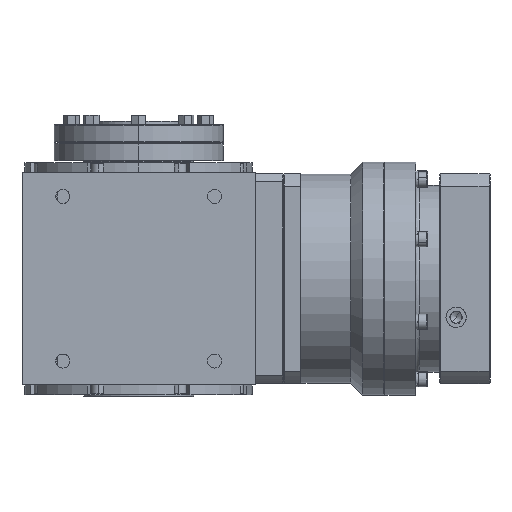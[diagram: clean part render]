
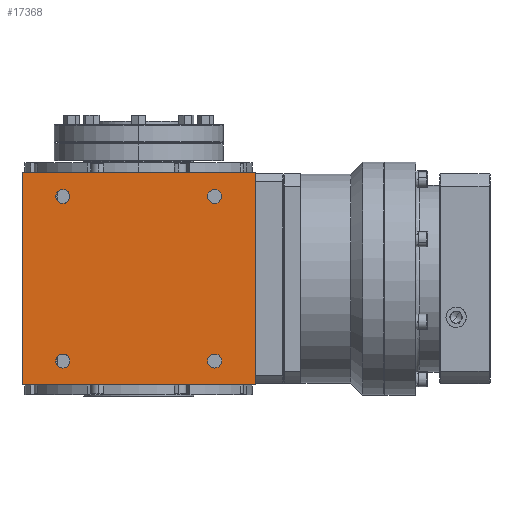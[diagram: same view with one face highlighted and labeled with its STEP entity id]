
A CAD part, left-side view. The second image highlights one B-rep face of the part: STEP entity #17368.
In plain terms, the highlighted planar face has unit normal (-1, 0, 0).
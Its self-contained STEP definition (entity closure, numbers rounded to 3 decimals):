
#117 = DIRECTION ( 'NONE',  ( 0., -1., 0. ) ) ;
#255 = EDGE_CURVE ( 'NONE', #13703, #36221, #17643, .T. ) ;
#526 = DIRECTION ( 'NONE',  ( 1., 0., 0. ) ) ;
#888 = CARTESIAN_POINT ( 'NONE',  ( -100., -100., 91. ) ) ;
#1069 = CARTESIAN_POINT ( 'NONE',  ( -100., 0., 91. ) ) ;
#1543 = CARTESIAN_POINT ( 'NONE',  ( -100., -65., -70.5 ) ) ;
#2199 = VERTEX_POINT ( 'NONE', #27419 ) ;
#2318 = CARTESIAN_POINT ( 'NONE',  ( -100., -59., -70.5 ) ) ;
#2476 = CIRCLE ( 'NONE', #6060, 6. ) ;
#2663 = LINE ( 'NONE', #25051, #35531 ) ;
#3344 = VERTEX_POINT ( 'NONE', #20389 ) ;
#4444 = ORIENTED_EDGE ( 'NONE', *, *, #35548, .T. ) ;
#4516 = DIRECTION ( 'NONE',  ( 1., 0., 0. ) ) ;
#4564 = FACE_BOUND ( 'NONE', #4621, .T. ) ;
#4621 = EDGE_LOOP ( 'NONE', ( #18715, #29236 ) ) ;
#4871 = CARTESIAN_POINT ( 'NONE',  ( -100., 65., -70.5 ) ) ;
#5021 = ORIENTED_EDGE ( 'NONE', *, *, #6760, .T. ) ;
#6060 = AXIS2_PLACEMENT_3D ( 'NONE', #32940, #18731, #30140 ) ;
#6250 = ORIENTED_EDGE ( 'NONE', *, *, #8907, .T. ) ;
#6296 = VERTEX_POINT ( 'NONE', #13477 ) ;
#6535 = CARTESIAN_POINT ( 'NONE',  ( -100., 65., 70.5 ) ) ;
#6566 = ORIENTED_EDGE ( 'NONE', *, *, #7758, .T. ) ;
#6760 = EDGE_CURVE ( 'NONE', #17525, #27306, #10519, .T. ) ;
#6991 = FACE_OUTER_BOUND ( 'NONE', #14934, .T. ) ;
#7351 = FACE_BOUND ( 'NONE', #13993, .T. ) ;
#7401 = CARTESIAN_POINT ( 'NONE',  ( -100., 59., 70.5 ) ) ;
#7758 = EDGE_CURVE ( 'NONE', #8546, #6296, #33075, .T. ) ;
#8546 = VERTEX_POINT ( 'NONE', #36863 ) ;
#8596 = AXIS2_PLACEMENT_3D ( 'NONE', #32572, #27329, #12220 ) ;
#8780 = ORIENTED_EDGE ( 'NONE', *, *, #36685, .T. ) ;
#8854 = CARTESIAN_POINT ( 'NONE',  ( -100., -71., -70.5 ) ) ;
#8907 = EDGE_CURVE ( 'NONE', #3344, #13703, #2663, .T. ) ;
#9609 = CIRCLE ( 'NONE', #14946, 6. ) ;
#9814 = CIRCLE ( 'NONE', #24704, 6. ) ;
#10117 = DIRECTION ( 'NONE',  ( 1., 0., 0. ) ) ;
#10519 = CIRCLE ( 'NONE', #20474, 6. ) ;
#10856 = CARTESIAN_POINT ( 'NONE',  ( -100., 59., -70.5 ) ) ;
#11247 = DIRECTION ( 'NONE',  ( 0., -1., 0. ) ) ;
#12078 = DIRECTION ( 'NONE',  ( 0., -1., 0. ) ) ;
#12220 = DIRECTION ( 'NONE',  ( 0., -1., 0. ) ) ;
#12295 = EDGE_LOOP ( 'NONE', ( #6566, #36817 ) ) ;
#12448 = DIRECTION ( 'NONE',  ( 0., -1., 0. ) ) ;
#12581 = CARTESIAN_POINT ( 'NONE',  ( -100., 65., 70.5 ) ) ;
#12834 = VECTOR ( 'NONE', #24155, 1000. ) ;
#13450 = ORIENTED_EDGE ( 'NONE', *, *, #22444, .T. ) ;
#13477 = CARTESIAN_POINT ( 'NONE',  ( -100., -59., 70.5 ) ) ;
#13703 = VERTEX_POINT ( 'NONE', #20120 ) ;
#13971 = VECTOR ( 'NONE', #26234, 1000. ) ;
#13993 = EDGE_LOOP ( 'NONE', ( #8780, #13450 ) ) ;
#14851 = CARTESIAN_POINT ( 'NONE',  ( -100., -100., -91. ) ) ;
#14934 = EDGE_LOOP ( 'NONE', ( #20012, #22158, #21600, #6250 ) ) ;
#14946 = AXIS2_PLACEMENT_3D ( 'NONE', #4871, #4516, #33438 ) ;
#15183 = AXIS2_PLACEMENT_3D ( 'NONE', #1543, #10117, #21491 ) ;
#15271 = VERTEX_POINT ( 'NONE', #7401 ) ;
#15933 = PLANE ( 'NONE',  #8596 ) ;
#17194 = CIRCLE ( 'NONE', #18978, 6. ) ;
#17368 = ADVANCED_FACE ( 'NONE', ( #21163, #7351, #18727, #4564, #6991 ), #15933, .T. ) ;
#17525 = VERTEX_POINT ( 'NONE', #19276 ) ;
#17643 = LINE ( 'NONE', #14851, #13971 ) ;
#17890 = DIRECTION ( 'NONE',  ( 1., 0., 0. ) ) ;
#18649 = VERTEX_POINT ( 'NONE', #2318 ) ;
#18715 = ORIENTED_EDGE ( 'NONE', *, *, #25579, .T. ) ;
#18727 = FACE_BOUND ( 'NONE', #12295, .T. ) ;
#18731 = DIRECTION ( 'NONE',  ( 1., 0., 0. ) ) ;
#18797 = VERTEX_POINT ( 'NONE', #8854 ) ;
#18978 = AXIS2_PLACEMENT_3D ( 'NONE', #6535, #17890, #29298 ) ;
#19276 = CARTESIAN_POINT ( 'NONE',  ( -100., 71., -70.5 ) ) ;
#20012 = ORIENTED_EDGE ( 'NONE', *, *, #255, .T. ) ;
#20120 = CARTESIAN_POINT ( 'NONE',  ( -100., -100., -91. ) ) ;
#20389 = CARTESIAN_POINT ( 'NONE',  ( -100., 100., -91. ) ) ;
#20473 = CARTESIAN_POINT ( 'NONE',  ( -100., -65., 70.5 ) ) ;
#20474 = AXIS2_PLACEMENT_3D ( 'NONE', #31309, #25684, #117 ) ;
#21163 = FACE_BOUND ( 'NONE', #33060, .T. ) ;
#21359 = CARTESIAN_POINT ( 'NONE',  ( -100., 100., -91. ) ) ;
#21491 = DIRECTION ( 'NONE',  ( 0., -1., 0. ) ) ;
#21600 = ORIENTED_EDGE ( 'NONE', *, *, #33863, .F. ) ;
#22158 = ORIENTED_EDGE ( 'NONE', *, *, #24108, .F. ) ;
#22444 = EDGE_CURVE ( 'NONE', #18649, #18797, #2476, .T. ) ;
#22531 = AXIS2_PLACEMENT_3D ( 'NONE', #12581, #26219, #29763 ) ;
#23668 = DIRECTION ( 'NONE',  ( 1., 0., 0. ) ) ;
#24108 = EDGE_CURVE ( 'NONE', #2199, #36221, #26634, .T. ) ;
#24155 = DIRECTION ( 'NONE',  ( 0., 0., 1. ) ) ;
#24216 = DIRECTION ( 'NONE',  ( 0., -1., 0. ) ) ;
#24629 = VECTOR ( 'NONE', #12448, 1000. ) ;
#24704 = AXIS2_PLACEMENT_3D ( 'NONE', #20473, #526, #12078 ) ;
#24732 = CIRCLE ( 'NONE', #15183, 6. ) ;
#25051 = CARTESIAN_POINT ( 'NONE',  ( -100., 100., -91. ) ) ;
#25579 = EDGE_CURVE ( 'NONE', #15271, #29318, #26103, .T. ) ;
#25684 = DIRECTION ( 'NONE',  ( 1., 0., 0. ) ) ;
#25944 = EDGE_CURVE ( 'NONE', #29318, #15271, #17194, .T. ) ;
#26103 = CIRCLE ( 'NONE', #22531, 6. ) ;
#26219 = DIRECTION ( 'NONE',  ( 1., 0., 0. ) ) ;
#26234 = DIRECTION ( 'NONE',  ( 0., 0., 1. ) ) ;
#26634 = LINE ( 'NONE', #1069, #24629 ) ;
#27306 = VERTEX_POINT ( 'NONE', #10856 ) ;
#27329 = DIRECTION ( 'NONE',  ( -1., 0., 0. ) ) ;
#27419 = CARTESIAN_POINT ( 'NONE',  ( -100., 100., 91. ) ) ;
#29236 = ORIENTED_EDGE ( 'NONE', *, *, #25944, .T. ) ;
#29298 = DIRECTION ( 'NONE',  ( 0., -1., 0. ) ) ;
#29318 = VERTEX_POINT ( 'NONE', #36489 ) ;
#29763 = DIRECTION ( 'NONE',  ( 0., -1., 0. ) ) ;
#30140 = DIRECTION ( 'NONE',  ( 0., -1., 0. ) ) ;
#31309 = CARTESIAN_POINT ( 'NONE',  ( -100., 65., -70.5 ) ) ;
#32572 = CARTESIAN_POINT ( 'NONE',  ( -100., 100., -91. ) ) ;
#32580 = LINE ( 'NONE', #21359, #12834 ) ;
#32940 = CARTESIAN_POINT ( 'NONE',  ( -100., -65., -70.5 ) ) ;
#33060 = EDGE_LOOP ( 'NONE', ( #4444, #5021 ) ) ;
#33075 = CIRCLE ( 'NONE', #34861, 6. ) ;
#33438 = DIRECTION ( 'NONE',  ( 0., -1., 0. ) ) ;
#33863 = EDGE_CURVE ( 'NONE', #3344, #2199, #32580, .T. ) ;
#34861 = AXIS2_PLACEMENT_3D ( 'NONE', #35429, #23668, #24216 ) ;
#35429 = CARTESIAN_POINT ( 'NONE',  ( -100., -65., 70.5 ) ) ;
#35531 = VECTOR ( 'NONE', #11247, 1000. ) ;
#35548 = EDGE_CURVE ( 'NONE', #27306, #17525, #9609, .T. ) ;
#36196 = EDGE_CURVE ( 'NONE', #6296, #8546, #9814, .T. ) ;
#36221 = VERTEX_POINT ( 'NONE', #888 ) ;
#36489 = CARTESIAN_POINT ( 'NONE',  ( -100., 71., 70.5 ) ) ;
#36685 = EDGE_CURVE ( 'NONE', #18797, #18649, #24732, .T. ) ;
#36817 = ORIENTED_EDGE ( 'NONE', *, *, #36196, .T. ) ;
#36863 = CARTESIAN_POINT ( 'NONE',  ( -100., -71., 70.5 ) ) ;
